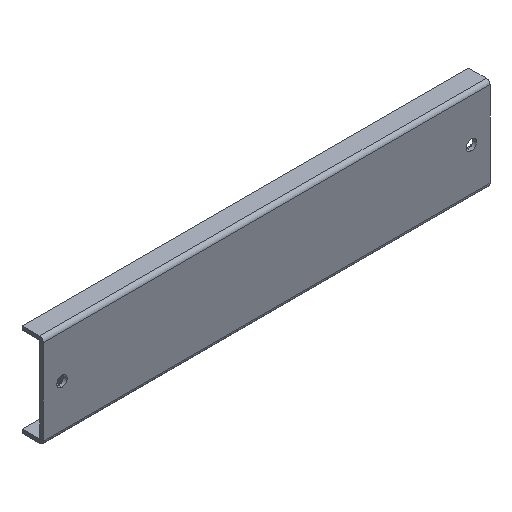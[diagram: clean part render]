
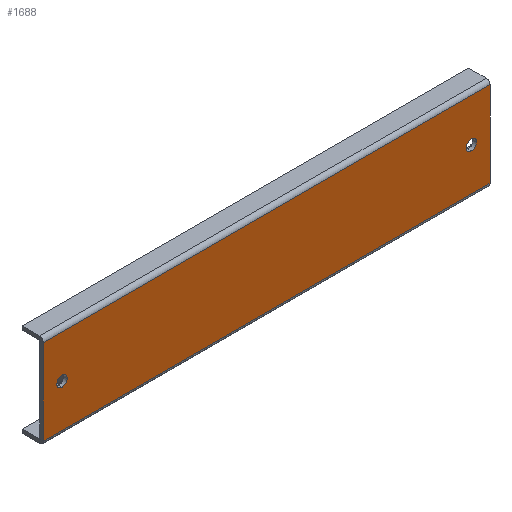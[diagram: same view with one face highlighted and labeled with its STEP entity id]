
A CAD part, isometric view. The second image highlights one B-rep face of the part: STEP entity #1688.
In plain terms, the highlighted planar face has unit normal (0, -1, 0).
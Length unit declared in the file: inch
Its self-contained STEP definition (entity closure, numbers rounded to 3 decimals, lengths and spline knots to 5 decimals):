
#75 = ORIENTED_EDGE ( 'NONE', *, *, #545, .T. ) ;
#114 = ORIENTED_EDGE ( 'NONE', *, *, #305, .T. ) ;
#154 = VECTOR ( 'NONE', #972, 39.37008 ) ;
#174 = EDGE_CURVE ( 'NONE', #1066, #2101, #1458, .T. ) ;
#218 = ORIENTED_EDGE ( 'NONE', *, *, #174, .F. ) ;
#233 = EDGE_CURVE ( 'NONE', #1191, #2101, #849, .T. ) ;
#243 = DIRECTION ( 'NONE',  ( 0., 0., 1. ) ) ;
#245 = EDGE_LOOP ( 'NONE', ( #275, #218, #1299, #1857 ) ) ;
#270 = CARTESIAN_POINT ( 'NONE',  ( -6., 0., -1.147 ) ) ;
#275 = ORIENTED_EDGE ( 'NONE', *, *, #233, .T. ) ;
#305 = EDGE_CURVE ( 'NONE', #1877, #1629, #952, .T. ) ;
#309 = CARTESIAN_POINT ( 'NONE',  ( 5.5, 0., 0. ) ) ;
#347 = VERTEX_POINT ( 'NONE', #394 ) ;
#389 = CARTESIAN_POINT ( 'NONE',  ( 6., 0., 1.147 ) ) ;
#394 = CARTESIAN_POINT ( 'NONE',  ( -6., 0., 1.147 ) ) ;
#395 = CARTESIAN_POINT ( 'NONE',  ( 5.5, 0., -0.14063 ) ) ;
#405 = DIRECTION ( 'NONE',  ( 0., 1., 0. ) ) ;
#451 = VECTOR ( 'NONE', #1885, 39.37008 ) ;
#458 = ORIENTED_EDGE ( 'NONE', *, *, #1342, .T. ) ;
#464 = DIRECTION ( 'NONE',  ( 0., 1., 0. ) ) ;
#545 = EDGE_CURVE ( 'NONE', #1154, #1654, #2162, .T. ) ;
#646 = CARTESIAN_POINT ( 'NONE',  ( -6., 0., -1.25 ) ) ;
#695 = LINE ( 'NONE', #646, #1536 ) ;
#698 = FACE_OUTER_BOUND ( 'NONE', #245, .T. ) ;
#744 = EDGE_CURVE ( 'NONE', #1066, #347, #1075, .T. ) ;
#816 = EDGE_LOOP ( 'NONE', ( #458, #75 ) ) ;
#849 = LINE ( 'NONE', #2217, #451 ) ;
#925 = CARTESIAN_POINT ( 'NONE',  ( -6., 0., 1.25 ) ) ;
#928 = DIRECTION ( 'NONE',  ( 0., 0., 1. ) ) ;
#952 = CIRCLE ( 'NONE', #1076, 0.14063 ) ;
#972 = DIRECTION ( 'NONE',  ( -1., 0., 0. ) ) ;
#1011 = DIRECTION ( 'NONE',  ( 0., 0., 1. ) ) ;
#1035 = CARTESIAN_POINT ( 'NONE',  ( -5.5, 0., 0. ) ) ;
#1066 = VERTEX_POINT ( 'NONE', #389 ) ;
#1075 = LINE ( 'NONE', #1860, #154 ) ;
#1076 = AXIS2_PLACEMENT_3D ( 'NONE', #1480, #405, #928 ) ;
#1107 = PLANE ( 'NONE',  #1766 ) ;
#1154 = VERTEX_POINT ( 'NONE', #395 ) ;
#1167 = FACE_BOUND ( 'NONE', #816, .T. ) ;
#1186 = CARTESIAN_POINT ( 'NONE',  ( 6., 0., -1.25 ) ) ;
#1191 = VERTEX_POINT ( 'NONE', #270 ) ;
#1299 = ORIENTED_EDGE ( 'NONE', *, *, #744, .T. ) ;
#1342 = EDGE_CURVE ( 'NONE', #1654, #1154, #1430, .T. ) ;
#1401 = DIRECTION ( 'NONE',  ( 0., 1., 0. ) ) ;
#1430 = CIRCLE ( 'NONE', #1659, 0.14063 ) ;
#1458 = LINE ( 'NONE', #1186, #2001 ) ;
#1478 = DIRECTION ( 'NONE',  ( 0., 1., 0. ) ) ;
#1480 = CARTESIAN_POINT ( 'NONE',  ( -5.5, 0., 0. ) ) ;
#1535 = CARTESIAN_POINT ( 'NONE',  ( 5.5, 0., 0. ) ) ;
#1536 = VECTOR ( 'NONE', #1011, 39.37008 ) ;
#1554 = DIRECTION ( 'NONE',  ( 0., 0., -1. ) ) ;
#1629 = VERTEX_POINT ( 'NONE', #1825 ) ;
#1654 = VERTEX_POINT ( 'NONE', #2175 ) ;
#1659 = AXIS2_PLACEMENT_3D ( 'NONE', #309, #2072, #2083 ) ;
#1688 = ADVANCED_FACE ( 'NONE', ( #2058, #1167, #698 ), #1107, .F. ) ;
#1745 = DIRECTION ( 'NONE',  ( 0., 0., 1. ) ) ;
#1766 = AXIS2_PLACEMENT_3D ( 'NONE', #925, #1478, #243 ) ;
#1825 = CARTESIAN_POINT ( 'NONE',  ( -5.5, 0., -0.14063 ) ) ;
#1857 = ORIENTED_EDGE ( 'NONE', *, *, #2110, .F. ) ;
#1860 = CARTESIAN_POINT ( 'NONE',  ( 6., 0., 1.147 ) ) ;
#1877 = VERTEX_POINT ( 'NONE', #2257 ) ;
#1885 = DIRECTION ( 'NONE',  ( 1., 0., 0. ) ) ;
#1898 = DIRECTION ( 'NONE',  ( 0., 0., 1. ) ) ;
#1908 = EDGE_LOOP ( 'NONE', ( #114, #2068 ) ) ;
#2001 = VECTOR ( 'NONE', #1554, 39.37008 ) ;
#2056 = CIRCLE ( 'NONE', #2179, 0.14063 ) ;
#2058 = FACE_BOUND ( 'NONE', #1908, .T. ) ;
#2068 = ORIENTED_EDGE ( 'NONE', *, *, #2157, .T. ) ;
#2072 = DIRECTION ( 'NONE',  ( 0., 1., 0. ) ) ;
#2083 = DIRECTION ( 'NONE',  ( 0., 0., 1. ) ) ;
#2101 = VERTEX_POINT ( 'NONE', #2205 ) ;
#2110 = EDGE_CURVE ( 'NONE', #1191, #347, #695, .T. ) ;
#2116 = AXIS2_PLACEMENT_3D ( 'NONE', #1535, #464, #1898 ) ;
#2157 = EDGE_CURVE ( 'NONE', #1629, #1877, #2056, .T. ) ;
#2162 = CIRCLE ( 'NONE', #2116, 0.14063 ) ;
#2175 = CARTESIAN_POINT ( 'NONE',  ( 5.5, 0., 0.14063 ) ) ;
#2179 = AXIS2_PLACEMENT_3D ( 'NONE', #1035, #1401, #1745 ) ;
#2205 = CARTESIAN_POINT ( 'NONE',  ( 6., 0., -1.147 ) ) ;
#2217 = CARTESIAN_POINT ( 'NONE',  ( -6., 0., -1.147 ) ) ;
#2257 = CARTESIAN_POINT ( 'NONE',  ( -5.5, 0., 0.14063 ) ) ;
